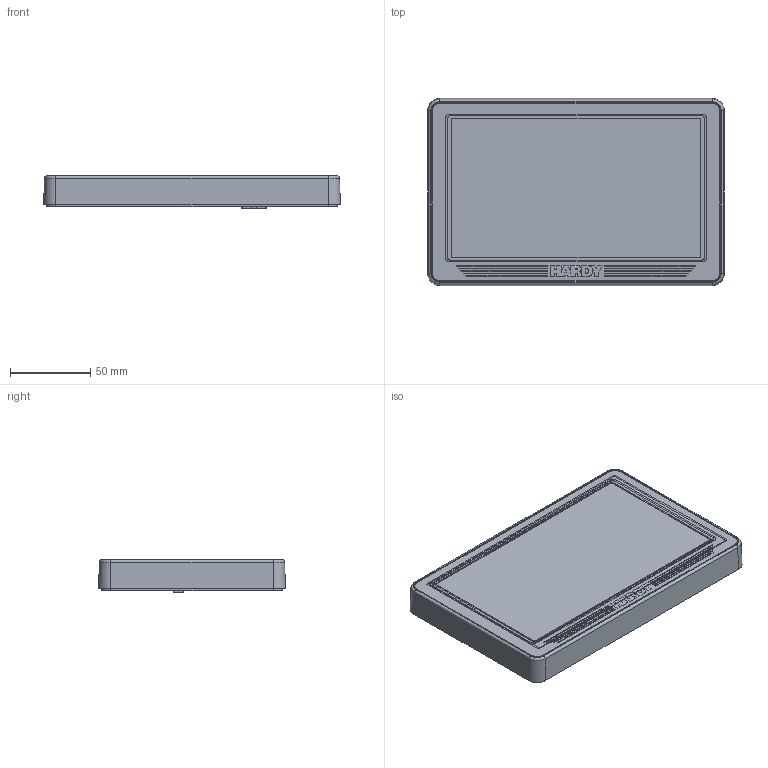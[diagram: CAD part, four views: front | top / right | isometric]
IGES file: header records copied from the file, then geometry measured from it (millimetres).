
Start section: SolidWorks IGES file using analytic representation for surfaces
Global section: file name: C:\0_Work\SolidWorks\~HI 6100 Display\Redesign Version Generated In 2020\HI6150.IGS; native system: SolidWorks 2020; preprocessor: SolidWorks 2020; author: vach01; date: 231018.092117; units: inch
Bounding box: 185.42 x 116.84 x 20.26 mm (x, y, z)
Surface area: 248447.4 mm2 (no closed solid volume)
Topology: 0 solids, 0 shells, 6354 faces, 42369 edges, 42334 vertices
Faces by surface type: bspline 5600, revolution 754
